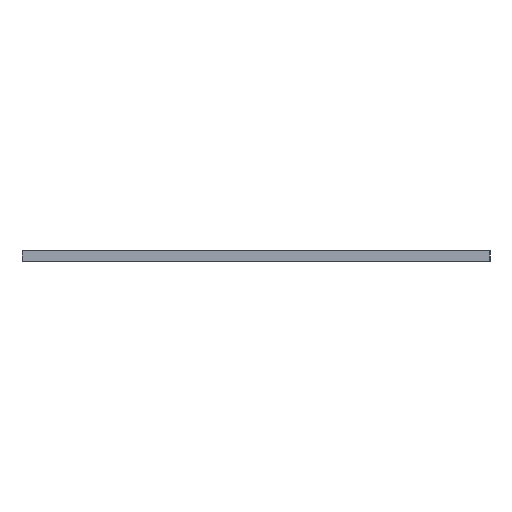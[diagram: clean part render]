
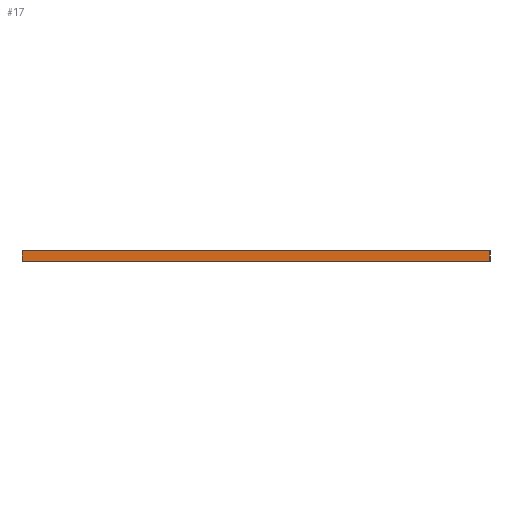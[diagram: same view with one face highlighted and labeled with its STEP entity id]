
A CAD part, left-side view. The second image highlights one B-rep face of the part: STEP entity #17.
In plain terms, the highlighted planar face has unit normal (-1, 0, 0).
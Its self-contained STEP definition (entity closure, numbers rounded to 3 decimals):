
#17 = ADVANCED_FACE('',(#18),#32,.F.);
#18 = FACE_BOUND('',#19,.F.);
#19 = EDGE_LOOP('',(#20,#55,#83,#111));
#20 = ORIENTED_EDGE('',*,*,#21,.F.);
#21 = EDGE_CURVE('',#22,#24,#26,.T.);
#22 = VERTEX_POINT('',#23);
#23 = CARTESIAN_POINT('',(-49.,-253.,-55.5));
#24 = VERTEX_POINT('',#25);
#25 = CARTESIAN_POINT('',(-49.,-253.,-54.));
#26 = SURFACE_CURVE('',#27,(#31,#43),.PCURVE_S1.);
#27 = LINE('',#28,#29);
#28 = CARTESIAN_POINT('',(-49.,-253.,-55.5));
#29 = VECTOR('',#30,1.);
#30 = DIRECTION('',(0.,0.,1.));
#31 = PCURVE('',#32,#37);
#32 = PLANE('',#33);
#33 = AXIS2_PLACEMENT_3D('',#34,#35,#36);
#34 = CARTESIAN_POINT('',(-49.,-253.,-55.5));
#35 = DIRECTION('',(1.,0.,-0.));
#36 = DIRECTION('',(0.,0.,1.));
#37 = DEFINITIONAL_REPRESENTATION('',(#38),#42);
#38 = LINE('',#39,#40);
#39 = CARTESIAN_POINT('',(0.,0.));
#40 = VECTOR('',#41,1.);
#41 = DIRECTION('',(1.,0.));
#42 = ( GEOMETRIC_REPRESENTATION_CONTEXT(2) 
PARAMETRIC_REPRESENTATION_CONTEXT() REPRESENTATION_CONTEXT('2D SPACE',''
  ) );
#43 = PCURVE('',#44,#49);
#44 = PLANE('',#45);
#45 = AXIS2_PLACEMENT_3D('',#46,#47,#48);
#46 = CARTESIAN_POINT('',(-49.,-253.,-55.5));
#47 = DIRECTION('',(-0.,1.,0.));
#48 = DIRECTION('',(0.,0.,1.));
#49 = DEFINITIONAL_REPRESENTATION('',(#50),#54);
#50 = LINE('',#51,#52);
#51 = CARTESIAN_POINT('',(0.,0.));
#52 = VECTOR('',#53,1.);
#53 = DIRECTION('',(1.,0.));
#54 = ( GEOMETRIC_REPRESENTATION_CONTEXT(2) 
PARAMETRIC_REPRESENTATION_CONTEXT() REPRESENTATION_CONTEXT('2D SPACE',''
  ) );
#55 = ORIENTED_EDGE('',*,*,#56,.T.);
#56 = EDGE_CURVE('',#22,#57,#59,.T.);
#57 = VERTEX_POINT('',#58);
#58 = CARTESIAN_POINT('',(-49.,-183.,-55.5));
#59 = SURFACE_CURVE('',#60,(#64,#71),.PCURVE_S1.);
#60 = LINE('',#61,#62);
#61 = CARTESIAN_POINT('',(-49.,-253.,-55.5));
#62 = VECTOR('',#63,1.);
#63 = DIRECTION('',(-0.,1.,0.));
#64 = PCURVE('',#32,#65);
#65 = DEFINITIONAL_REPRESENTATION('',(#66),#70);
#66 = LINE('',#67,#68);
#67 = CARTESIAN_POINT('',(0.,0.));
#68 = VECTOR('',#69,1.);
#69 = DIRECTION('',(0.,-1.));
#70 = ( GEOMETRIC_REPRESENTATION_CONTEXT(2) 
PARAMETRIC_REPRESENTATION_CONTEXT() REPRESENTATION_CONTEXT('2D SPACE',''
  ) );
#71 = PCURVE('',#72,#77);
#72 = PLANE('',#73);
#73 = AXIS2_PLACEMENT_3D('',#74,#75,#76);
#74 = CARTESIAN_POINT('',(-49.,-253.,-55.5));
#75 = DIRECTION('',(0.,0.,1.));
#76 = DIRECTION('',(1.,0.,-0.));
#77 = DEFINITIONAL_REPRESENTATION('',(#78),#82);
#78 = LINE('',#79,#80);
#79 = CARTESIAN_POINT('',(0.,0.));
#80 = VECTOR('',#81,1.);
#81 = DIRECTION('',(0.,1.));
#82 = ( GEOMETRIC_REPRESENTATION_CONTEXT(2) 
PARAMETRIC_REPRESENTATION_CONTEXT() REPRESENTATION_CONTEXT('2D SPACE',''
  ) );
#83 = ORIENTED_EDGE('',*,*,#84,.T.);
#84 = EDGE_CURVE('',#57,#85,#87,.T.);
#85 = VERTEX_POINT('',#86);
#86 = CARTESIAN_POINT('',(-49.,-183.,-54.));
#87 = SURFACE_CURVE('',#88,(#92,#99),.PCURVE_S1.);
#88 = LINE('',#89,#90);
#89 = CARTESIAN_POINT('',(-49.,-183.,-55.5));
#90 = VECTOR('',#91,1.);
#91 = DIRECTION('',(0.,0.,1.));
#92 = PCURVE('',#32,#93);
#93 = DEFINITIONAL_REPRESENTATION('',(#94),#98);
#94 = LINE('',#95,#96);
#95 = CARTESIAN_POINT('',(0.,-70.));
#96 = VECTOR('',#97,1.);
#97 = DIRECTION('',(1.,0.));
#98 = ( GEOMETRIC_REPRESENTATION_CONTEXT(2) 
PARAMETRIC_REPRESENTATION_CONTEXT() REPRESENTATION_CONTEXT('2D SPACE',''
  ) );
#99 = PCURVE('',#100,#105);
#100 = PLANE('',#101);
#101 = AXIS2_PLACEMENT_3D('',#102,#103,#104);
#102 = CARTESIAN_POINT('',(-49.,-183.,-55.5));
#103 = DIRECTION('',(-0.,1.,0.));
#104 = DIRECTION('',(0.,0.,1.));
#105 = DEFINITIONAL_REPRESENTATION('',(#106),#110);
#106 = LINE('',#107,#108);
#107 = CARTESIAN_POINT('',(0.,0.));
#108 = VECTOR('',#109,1.);
#109 = DIRECTION('',(1.,0.));
#110 = ( GEOMETRIC_REPRESENTATION_CONTEXT(2) 
PARAMETRIC_REPRESENTATION_CONTEXT() REPRESENTATION_CONTEXT('2D SPACE',''
  ) );
#111 = ORIENTED_EDGE('',*,*,#112,.F.);
#112 = EDGE_CURVE('',#24,#85,#113,.T.);
#113 = SURFACE_CURVE('',#114,(#118,#125),.PCURVE_S1.);
#114 = LINE('',#115,#116);
#115 = CARTESIAN_POINT('',(-49.,-253.,-54.));
#116 = VECTOR('',#117,1.);
#117 = DIRECTION('',(-0.,1.,0.));
#118 = PCURVE('',#32,#119);
#119 = DEFINITIONAL_REPRESENTATION('',(#120),#124);
#120 = LINE('',#121,#122);
#121 = CARTESIAN_POINT('',(1.5,0.));
#122 = VECTOR('',#123,1.);
#123 = DIRECTION('',(0.,-1.));
#124 = ( GEOMETRIC_REPRESENTATION_CONTEXT(2) 
PARAMETRIC_REPRESENTATION_CONTEXT() REPRESENTATION_CONTEXT('2D SPACE',''
  ) );
#125 = PCURVE('',#126,#131);
#126 = PLANE('',#127);
#127 = AXIS2_PLACEMENT_3D('',#128,#129,#130);
#128 = CARTESIAN_POINT('',(-49.,-253.,-54.));
#129 = DIRECTION('',(0.,0.,1.));
#130 = DIRECTION('',(1.,0.,-0.));
#131 = DEFINITIONAL_REPRESENTATION('',(#132),#136);
#132 = LINE('',#133,#134);
#133 = CARTESIAN_POINT('',(0.,0.));
#134 = VECTOR('',#135,1.);
#135 = DIRECTION('',(0.,1.));
#136 = ( GEOMETRIC_REPRESENTATION_CONTEXT(2) 
PARAMETRIC_REPRESENTATION_CONTEXT() REPRESENTATION_CONTEXT('2D SPACE',''
  ) );
